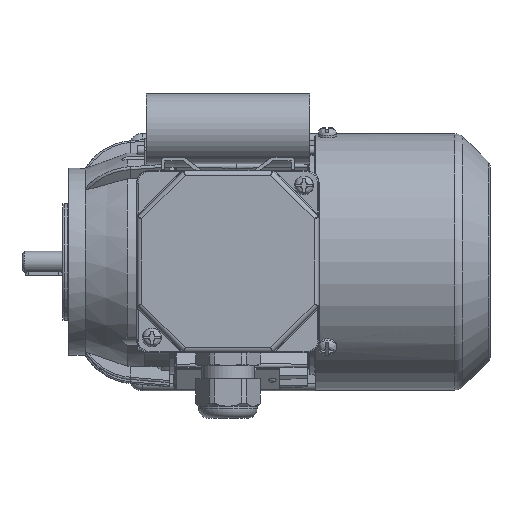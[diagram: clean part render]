
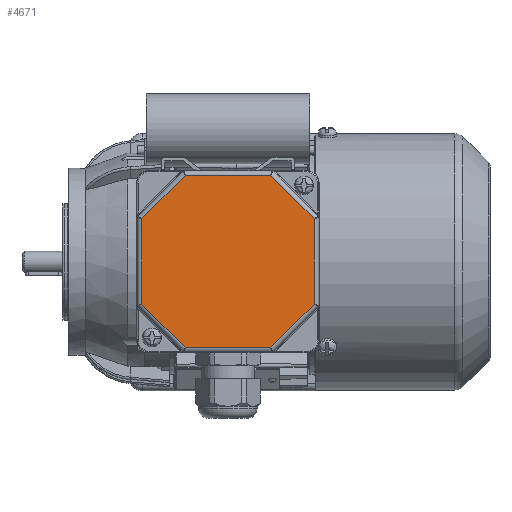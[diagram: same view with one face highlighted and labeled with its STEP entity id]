
A CAD part, top view. The second image highlights one B-rep face of the part: STEP entity #4671.
In plain terms, the highlighted planar face has unit normal (0, 0, 1).
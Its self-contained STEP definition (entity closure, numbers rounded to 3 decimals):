
#4671 = ADVANCED_FACE( '', ( #9724 ), #9725, .T. );
#9724 = FACE_OUTER_BOUND( '', #19207, .T. );
#9725 = PLANE( '', #19208 );
#19207 = EDGE_LOOP( '', ( #33827, #33828, #33829, #33830, #33831, #33832, #33833, #33834 ) );
#19208 = AXIS2_PLACEMENT_3D( '', #33835, #33836, #33837 );
#33827 = ORIENTED_EDGE( '', *, *, #44395, .T. );
#33828 = ORIENTED_EDGE( '', *, *, #43900, .T. );
#33829 = ORIENTED_EDGE( '', *, *, #42708, .T. );
#33830 = ORIENTED_EDGE( '', *, *, #41301, .T. );
#33831 = ORIENTED_EDGE( '', *, *, #43948, .T. );
#33832 = ORIENTED_EDGE( '', *, *, #41292, .T. );
#33833 = ORIENTED_EDGE( '', *, *, #40447, .T. );
#33834 = ORIENTED_EDGE( '', *, *, #40233, .T. );
#33835 = CARTESIAN_POINT( '', ( -39., 39., 12. ) );
#33836 = DIRECTION( '', ( 0., 0., 1. ) );
#33837 = DIRECTION( '', ( 1., 0., 0. ) );
#40233 = EDGE_CURVE( '', #47947, #47945, #47948, .T. );
#40447 = EDGE_CURVE( '', #48312, #47947, #48313, .F. );
#41292 = EDGE_CURVE( '', #49726, #48312, #49727, .T. );
#41301 = EDGE_CURVE( '', #49740, #49741, #49742, .T. );
#42708 = EDGE_CURVE( '', #51891, #49740, #51892, .F. );
#43900 = EDGE_CURVE( '', #47273, #51891, #53594, .T. );
#43948 = EDGE_CURVE( '', #49741, #49726, #53651, .F. );
#44395 = EDGE_CURVE( '', #47945, #47273, #54217, .F. );
#47273 = VERTEX_POINT( '', #57160 );
#47945 = VERTEX_POINT( '', #58373 );
#47947 = VERTEX_POINT( '', #58375 );
#47948 = LINE( '', #58376, #58377 );
#48312 = VERTEX_POINT( '', #59019 );
#48313 = LINE( '', #59020, #59021 );
#49726 = VERTEX_POINT( '', #61988 );
#49727 = LINE( '', #61989, #61990 );
#49740 = VERTEX_POINT( '', #62007 );
#49741 = VERTEX_POINT( '', #62008 );
#49742 = LINE( '', #62009, #62010 );
#51891 = VERTEX_POINT( '', #66441 );
#51892 = LINE( '', #66442, #66443 );
#53594 = LINE( '', #69321, #69322 );
#53651 = LINE( '', #69472, #69473 );
#54217 = LINE( '', #70823, #70824 );
#57160 = CARTESIAN_POINT( '', ( 36.825, 18.255, 12. ) );
#58373 = CARTESIAN_POINT( '', ( 36.825, -18.255, 12. ) );
#58375 = CARTESIAN_POINT( '', ( 18.255, -36.825, 12. ) );
#58376 = CARTESIAN_POINT( '', ( 37.401, -17.679, 12. ) );
#58377 = VECTOR( '', #74678, 1000. );
#59019 = CARTESIAN_POINT( '', ( -18.255, -36.825, 12. ) );
#59020 = CARTESIAN_POINT( '', ( 19.069, -36.825, 12. ) );
#59021 = VECTOR( '', #74945, 1000. );
#61988 = CARTESIAN_POINT( '', ( -36.825, -18.255, 12. ) );
#61989 = CARTESIAN_POINT( '', ( -17.679, -37.401, 12. ) );
#61990 = VECTOR( '', #75961, 1000. );
#62007 = CARTESIAN_POINT( '', ( -18.255, 36.825, 12. ) );
#62008 = CARTESIAN_POINT( '', ( -36.825, 18.255, 12. ) );
#62009 = CARTESIAN_POINT( '', ( -37.401, 17.679, 12. ) );
#62010 = VECTOR( '', #75972, 1000. );
#66441 = CARTESIAN_POINT( '', ( 18.255, 36.825, 12. ) );
#66442 = CARTESIAN_POINT( '', ( -19.069, 36.825, 12. ) );
#66443 = VECTOR( '', #77643, 1000. );
#69321 = CARTESIAN_POINT( '', ( 17.679, 37.401, 12. ) );
#69322 = VECTOR( '', #79359, 1000. );
#69472 = CARTESIAN_POINT( '', ( -36.825, -19.069, 12. ) );
#69473 = VECTOR( '', #79394, 1000. );
#70823 = CARTESIAN_POINT( '', ( 36.825, 19.069, 12. ) );
#70824 = VECTOR( '', #79835, 1000. );
#74678 = DIRECTION( '', ( 0.707, 0.707, 0. ) );
#74945 = DIRECTION( '', ( -1., 0., 0. ) );
#75961 = DIRECTION( '', ( 0.707, -0.707, 0. ) );
#75972 = DIRECTION( '', ( -0.707, -0.707, 0. ) );
#77643 = DIRECTION( '', ( 1., 0., 0. ) );
#79359 = DIRECTION( '', ( -0.707, 0.707, 0. ) );
#79394 = DIRECTION( '', ( 0., 1., 0. ) );
#79835 = DIRECTION( '', ( 0., -1., 0. ) );
